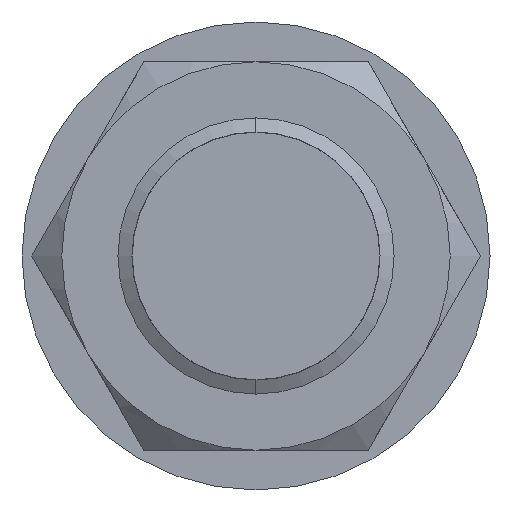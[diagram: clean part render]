
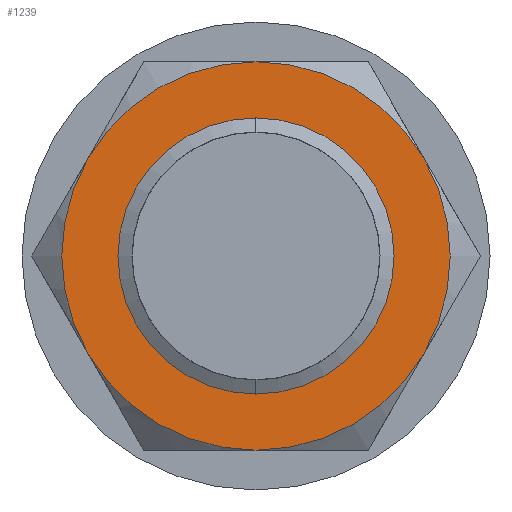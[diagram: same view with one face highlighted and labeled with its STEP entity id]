
A CAD part, left-side view. The second image highlights one B-rep face of the part: STEP entity #1239.
In plain terms, the highlighted planar face has unit normal (-1, 0, 0).
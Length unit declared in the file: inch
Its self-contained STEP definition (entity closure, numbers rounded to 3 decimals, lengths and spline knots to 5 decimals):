
#119 = CIRCLE ( 'NONE', #120, 0.332 ) ;
#120 = AXIS2_PLACEMENT_3D ( 'NONE', #121, #122, #123 ) ;
#121 = CARTESIAN_POINT ( 'NONE',  ( 17.90369, 10.62715, 0. ) ) ;
#122 = DIRECTION ( 'NONE',  ( 1., 0., 0. ) ) ;
#123 = DIRECTION ( 'NONE',  ( 0., 0., -1. ) ) ;
#182 = ORIENTED_EDGE ( 'NONE', *, *, #7565, .F. ) ;
#955 = EDGE_LOOP ( 'NONE', ( #182, #15502 ) ) ;
#1239 = ADVANCED_FACE ( 'NONE', ( #13902, #13903 ), #13904, .F. ) ;
#1307 = CARTESIAN_POINT ( 'NONE',  ( 17.90369, 10.39615, 0. ) ) ;
#1455 = CARTESIAN_POINT ( 'NONE',  ( 17.90369, 10.85815, 0. ) ) ;
#1487 = CIRCLE ( 'NONE', #1488, 0.332 ) ;
#1488 = AXIS2_PLACEMENT_3D ( 'NONE', #1489, #1490, #1491 ) ;
#1489 = CARTESIAN_POINT ( 'NONE',  ( 17.90369, 10.62715, 0. ) ) ;
#1490 = DIRECTION ( 'NONE',  ( 1., 0., 0. ) ) ;
#1491 = DIRECTION ( 'NONE',  ( 0., 0., -1. ) ) ;
#1595 = CIRCLE ( 'NONE', #1596, 0.231 ) ;
#1596 = AXIS2_PLACEMENT_3D ( 'NONE', #1597, #1598, #1599 ) ;
#1597 = CARTESIAN_POINT ( 'NONE',  ( 17.90369, 10.62715, 0. ) ) ;
#1598 = DIRECTION ( 'NONE',  ( -1., 0., 0. ) ) ;
#1599 = DIRECTION ( 'NONE',  ( 0., 1., 0. ) ) ;
#2070 = CARTESIAN_POINT ( 'NONE',  ( 17.90369, 10.91467, -0.166 ) ) ;
#2966 = CIRCLE ( 'NONE', #2967, 0.332 ) ;
#2967 = AXIS2_PLACEMENT_3D ( 'NONE', #2968, #2969, #2970 ) ;
#2968 = CARTESIAN_POINT ( 'NONE',  ( 17.90369, 10.62715, 0. ) ) ;
#2969 = DIRECTION ( 'NONE',  ( 1., 0., 0. ) ) ;
#2970 = DIRECTION ( 'NONE',  ( 0., 0., -1. ) ) ;
#3433 = EDGE_CURVE ( 'NONE', #7066, #7319, #15110, .T. ) ;
#4603 = CARTESIAN_POINT ( 'NONE',  ( 17.90369, 10.91467, 0.166 ) ) ;
#4604 = CIRCLE ( 'NONE', #4605, 0.332 ) ;
#4605 = AXIS2_PLACEMENT_3D ( 'NONE', #4606, #4615, #4616 ) ;
#4606 = CARTESIAN_POINT ( 'NONE',  ( 17.90369, 10.62715, 0. ) ) ;
#4615 = DIRECTION ( 'NONE',  ( 1., 0., 0. ) ) ;
#4616 = DIRECTION ( 'NONE',  ( 0., 0., -1. ) ) ;
#5049 = EDGE_CURVE ( 'NONE', #11732, #12721, #119, .T. ) ;
#5925 = CARTESIAN_POINT ( 'NONE',  ( 17.90369, 10.62715, -0.332 ) ) ;
#6510 = ORIENTED_EDGE ( 'NONE', *, *, #12877, .F. ) ;
#7055 = CARTESIAN_POINT ( 'NONE',  ( 17.90369, 10.62715, 0.332 ) ) ;
#7066 = VERTEX_POINT ( 'NONE', #1307 ) ;
#7109 = ORIENTED_EDGE ( 'NONE', *, *, #15636, .F. ) ;
#7319 = VERTEX_POINT ( 'NONE', #1455 ) ;
#7377 = EDGE_CURVE ( 'NONE', #8364, #11732, #1487, .T. ) ;
#7432 = CIRCLE ( 'NONE', #7433, 0.332 ) ;
#7433 = AXIS2_PLACEMENT_3D ( 'NONE', #7434, #7435, #7436 ) ;
#7434 = CARTESIAN_POINT ( 'NONE',  ( 17.90369, 10.62715, 0. ) ) ;
#7435 = DIRECTION ( 'NONE',  ( 1., 0., 0. ) ) ;
#7436 = DIRECTION ( 'NONE',  ( 0., 0., -1. ) ) ;
#7565 = EDGE_CURVE ( 'NONE', #7319, #7066, #1595, .T. ) ;
#7694 = ORIENTED_EDGE ( 'NONE', *, *, #7377, .F. ) ;
#8283 = ORIENTED_EDGE ( 'NONE', *, *, #5049, .F. ) ;
#8364 = VERTEX_POINT ( 'NONE', #2070 ) ;
#8726 = CARTESIAN_POINT ( 'NONE',  ( 17.90369, 10.33963, -0.166 ) ) ;
#8873 = ORIENTED_EDGE ( 'NONE', *, *, #11733, .F. ) ;
#9456 = ORIENTED_EDGE ( 'NONE', *, *, #9989, .F. ) ;
#9537 = CIRCLE ( 'NONE', #9538, 0.332 ) ;
#9538 = AXIS2_PLACEMENT_3D ( 'NONE', #9539, #9540, #9541 ) ;
#9539 = CARTESIAN_POINT ( 'NONE',  ( 17.90369, 10.62715, 0. ) ) ;
#9540 = DIRECTION ( 'NONE',  ( 1., 0., 0. ) ) ;
#9541 = DIRECTION ( 'NONE',  ( 0., 0., -1. ) ) ;
#9631 = CARTESIAN_POINT ( 'NONE',  ( 17.90369, 10.33963, 0.166 ) ) ;
#9989 = EDGE_CURVE ( 'NONE', #15826, #14248, #2966, .T. ) ;
#11732 = VERTEX_POINT ( 'NONE', #4603 ) ;
#11733 = EDGE_CURVE ( 'NONE', #12721, #15826, #4604, .T. ) ;
#12257 = VERTEX_POINT ( 'NONE', #5925 ) ;
#12721 = VERTEX_POINT ( 'NONE', #7055 ) ;
#12877 = EDGE_CURVE ( 'NONE', #14248, #12257, #7432, .T. ) ;
#13902 = FACE_BOUND ( 'NONE', #955, .T. ) ;
#13903 = FACE_OUTER_BOUND ( 'NONE', #15231, .T. ) ;
#13904 = PLANE ( 'NONE',  #13905 ) ;
#13905 = AXIS2_PLACEMENT_3D ( 'NONE', #13906, #13907, #13908 ) ;
#13906 = CARTESIAN_POINT ( 'NONE',  ( 17.90369, 10.62715, 0. ) ) ;
#13907 = DIRECTION ( 'NONE',  ( 1., 0., 0. ) ) ;
#13908 = DIRECTION ( 'NONE',  ( 0., 0., -1. ) ) ;
#14248 = VERTEX_POINT ( 'NONE', #8726 ) ;
#15110 = CIRCLE ( 'NONE', #15111, 0.231 ) ;
#15111 = AXIS2_PLACEMENT_3D ( 'NONE', #15112, #15125, #15126 ) ;
#15112 = CARTESIAN_POINT ( 'NONE',  ( 17.90369, 10.62715, 0. ) ) ;
#15125 = DIRECTION ( 'NONE',  ( -1., 0., 0. ) ) ;
#15126 = DIRECTION ( 'NONE',  ( 0., 1., 0. ) ) ;
#15231 = EDGE_LOOP ( 'NONE', ( #9456, #8873, #8283, #7694, #7109, #6510 ) ) ;
#15502 = ORIENTED_EDGE ( 'NONE', *, *, #3433, .F. ) ;
#15636 = EDGE_CURVE ( 'NONE', #12257, #8364, #9537, .T. ) ;
#15826 = VERTEX_POINT ( 'NONE', #9631 ) ;
